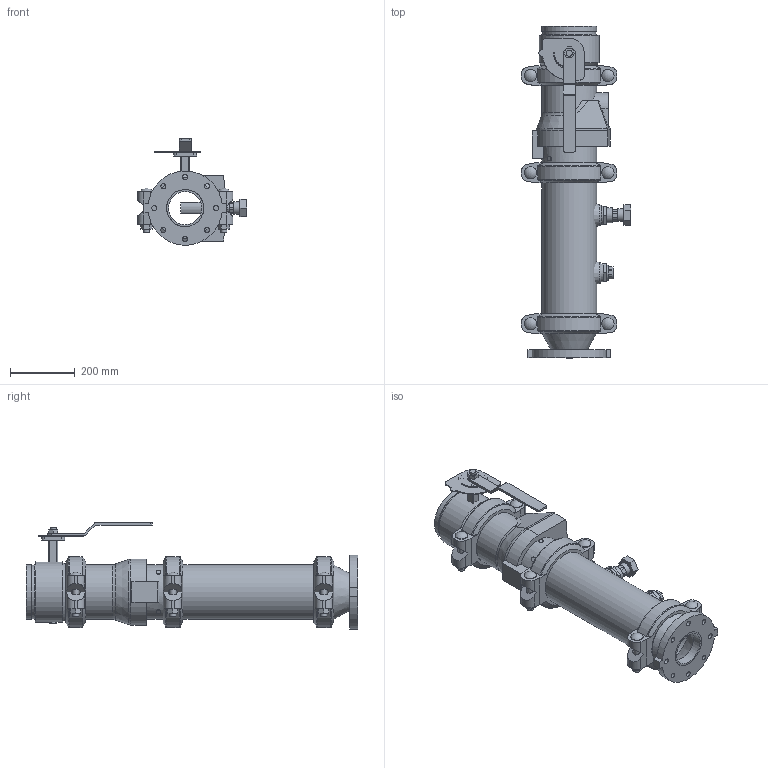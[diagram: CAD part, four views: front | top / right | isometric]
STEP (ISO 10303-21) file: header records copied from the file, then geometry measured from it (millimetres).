
FILE_DESCRIPTION(/* description */ ('VIC DVI PUMP DROP VERT S/380 (OGSxFLG) (S/924-1.25)','CAx-IF Rec.Pracs.---Representation and Presentation of Product Manufacturing Information (PMI)---4.0---2014-10-13'),/* implementation_level */ '2;1');
FILE_NAME(/* name */ 'C:\Users\Public\Documents\Victaulic.Temp\A765\Victaulic_IPS_Vertical DVI_CL 150_Series 380 (OGSxFLG)_924 (1.25)_06.0x04.0 (150x100).stp',/* time_stamp */ '2022-07-25T11:12:37+02:00',/* author */ ('Vjadhav'),/* organization */ ('Victaulic'),/* preprocessor_version */ 'ST-DEVELOPER v18',/* originating_system */ 'Autodesk Inventor 2020',/* authorisation */ '');
FILE_SCHEMA (('AP242_MANAGED_MODEL_BASED_3D_ENGINEERING_MIM_LF { 1 0 10303 442 1 1 4 }'));
Length unit declared in the file: inch
Products named in the file (9): 380_924 (1.25)-06.0x04.0; 741-04.0; 050-06.0x04.0; Pipe-06.0x04.0; 177N-06.0; 761-06.0; 779-06.0; 923-04.0x0.75; 924-04.0x01.25
Assembly tree (10 placements, depth 2):
  380_924 (1.25)-06.0x04.0
    741-04.0
    050-06.0x04.0
    177N-06.0  x3
    Pipe-06.0x04.0
    761-06.0
    779-06.0
    923-04.0x0.75
    924-04.0x01.25
Bounding box: 335.83 x 1022.35 x 326.73 mm (x, y, z)
Volume: 11086329.1 mm3; surface area: 1847799.1 mm2
Topology: 10 solids, 12 shells, 605 faces, 1573 edges, 1053 vertices
Faces by surface type: plane 356, cylinder 203, cone 20, torus 18, sphere 6, bspline 2
Full cylindrical faces by diameter (mm): 4.826 x10, 8.636 x4, 13.716 x4, 15.875 x8, 19.05 x8, 21.336 x1, 22.86 x1, 26.67 x2, 37.694 x6, 38.608 x1, 42.164 x1, 45.974 x4, 48.514 x1, 55.118 x1, 55.626 x2, 102.26 x1, 110.084 x1, 114.3 x3, 154.051 x4, 155.575 x3, 163.957 x7, 168.275 x19, 185.42 x1
Entity records: 14563 total; most frequent: CARTESIAN_POINT 2873, DIRECTION 2418, ORIENTED_EDGE 2174, EDGE_CURVE 1087, AXIS2_PLACEMENT_3D 920, VERTEX_POINT 733, LINE 578, VECTOR 578
